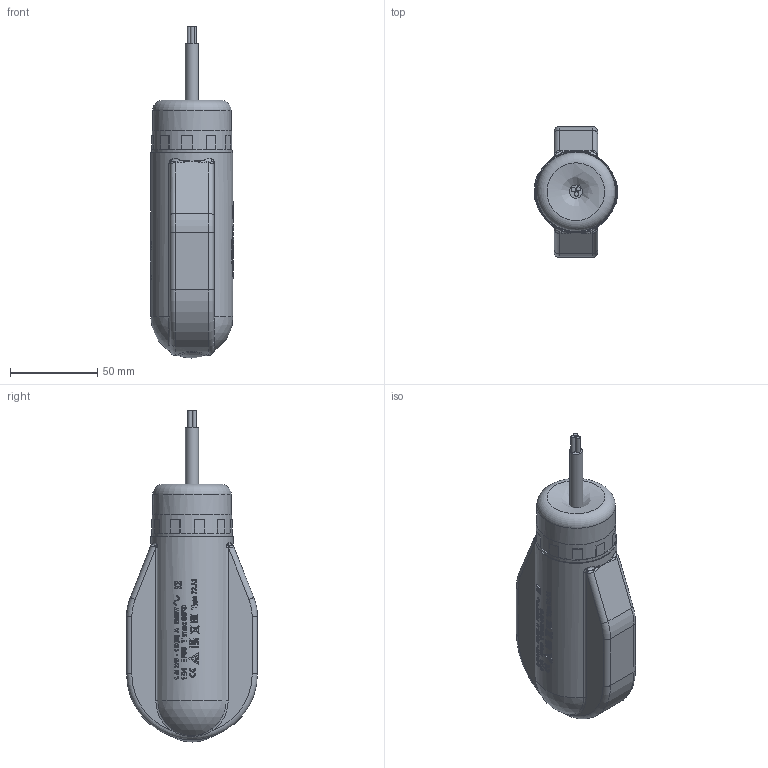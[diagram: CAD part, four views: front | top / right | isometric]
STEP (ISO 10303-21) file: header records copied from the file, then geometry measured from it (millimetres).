
FILE_DESCRIPTION(/* description */ (''),/* implementation_level */ '2;1');
FILE_NAME(/* name */ 'C:\Matic\LOVATO\Finder\Disegni Per finder\Finder 2 stp.stp',/* time_stamp */ '2022-12-22T12:17:57+01:00',/* author */ ('Enrico'),/* organization */ (''),/* preprocessor_version */ 'ST-DEVELOPER v18.1',/* originating_system */ 'Autodesk Inventor 2021',/* authorisation */ '');
FILE_SCHEMA (('AUTOMOTIVE_DESIGN { 1 0 10303 214 3 1 1 }'));
Products named in the file (5): Finder 2 bis Assieme; FINDER2; Macchinetta semplif; Macchinetta Semplif_Substitute_1; ghiera Hydros
Assembly tree (4 placements, depth 3):
  Finder 2 bis Assieme
    FINDER2
    Macchinetta semplif
      Macchinetta Semplif_Substitute_1
    ghiera Hydros
Bounding box: 47.65 x 75 x 190.25 mm (x, y, z)
Volume: 71190.3 mm3; surface area: 108818 mm2
Topology: 6 solids, 6 shells, 1677 faces, 4406 edges, 2885 vertices
Faces by surface type: plane 958, bspline 427, cylinder 249, torus 28, cone 9, sphere 6
Full cylindrical faces by diameter (mm): 0.287 x1, 2.5 x6, 3 x1, 4 x3, 5.5 x1, 6 x1, 7.5 x1, 11.518 x1, 30 x1, 32 x2, 34 x1, 41.6 x1, 42.079 x1, 44 x1, 45.079 x1, 45.5 x1, 46.071 x1, 47 x1
Entity records: 66197 total; most frequent: CARTESIAN_POINT 26533, ORIENTED_EDGE 8792, DIRECTION 7025, EDGE_CURVE 4396, VERTEX_POINT 2885, LINE 2355, VECTOR 2355, AXIS2_PLACEMENT_3D 2335
